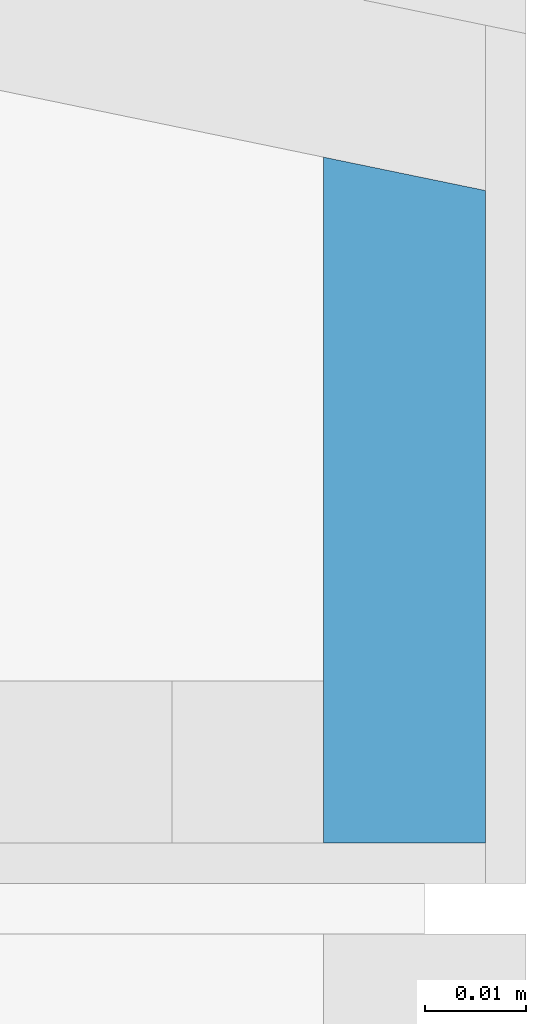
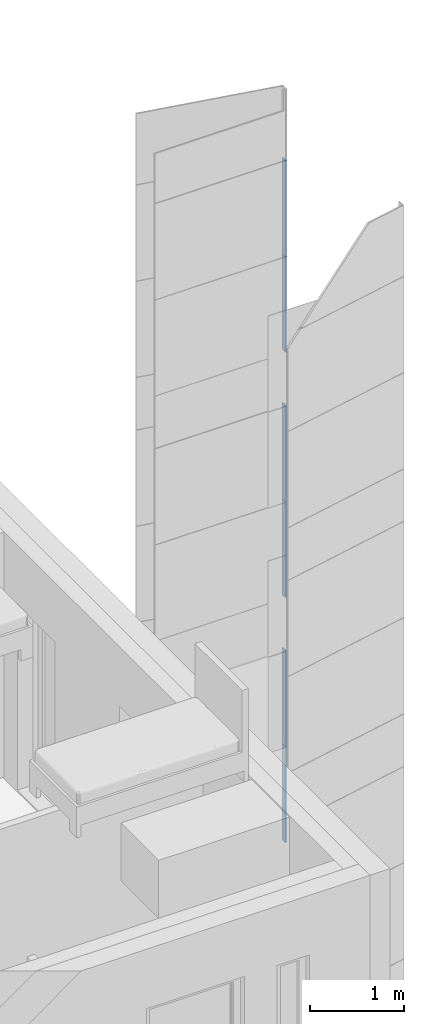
# One storey, part 16 of 125: 6 building element parts, 1 element without a shape of its own.
"""IFC2X3 building model written with IfcOpenShell, lengths in millimetres."""

from ifc_helpers import new_model, entity, si_unit, converted_unit, direction, frame, origin, place, context, subcontext, project, spatial, polyline, outline, extrude, material, type_object, element, aggregate, save


model = new_model("IFC2X3")

# Units and contexts
model_context = context("Model", 3, precision=0.01, world=origin(), true_north=direction((6.123233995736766e-17, 1.0)))
plan_context = context("Plan", 3, precision=0.01, world=origin(), true_north=direction((6.123233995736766e-17, 1.0)))
body_context = subcontext(model_context, "Body", "Model", "MODEL_VIEW")
ifc_project = project(units=[si_unit("LENGTHUNIT", "METRE", prefix="MILLI"), converted_unit("PLANEANGLEUNIT", "DEGREE", entity("IfcPlaneAngleMeasure", 0.017453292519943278), si_unit("PLANEANGLEUNIT", "RADIAN"), dimensions=[0, 0, 0, 0, 0, 0, 0]), si_unit("AREAUNIT", "SQUARE_METRE")], contexts=[model_context, plan_context])

# Site, building, storey
site_placement = place(None, origin())
site = spatial("IfcSite", under=ifc_project, at=site_placement, Name="Default", CompositionType="ELEMENT")
building_placement = place(site_placement, origin())
building = spatial("IfcBuilding", under=site, at=building_placement, CompositionType="ELEMENT")
storey_placement = place(building_placement, frame((0.0, 0.0, 3125.0)))
storey = spatial("IfcBuildingStorey", under=building, at=storey_placement, Name="2K", CompositionType="ELEMENT", Elevation=3125.0)

# Wall, building element parts
wall_type = type_object("IfcWallType", Name="Basic Wall:VS-komposiit", PredefinedType="STANDARD")
wall_placement = place(storey_placement, frame((18942.0, 5428.129167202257, -1010.0), z_axis=(0.0, 0.0, 1.0), x_axis=(0.0, -1.0, 0.0)))
wall = element("IfcWall", 1, at=wall_placement, inside=storey, type_object=wall_type, Name="Basic Wall:VS-komposiit", ObjectType="Basic Wall:VS-komposiit")
ifc_material = material(Name="_K. Õhk. Roov. Fassaadikatte alusroov. Horisontaalne. 25 mm")
building_element_part_1_placement = place(wall_placement, origin())
building_element_part_1 = element("IfcBuildingElementPart", 2, at=building_element_part_1_placement, material=ifc_material, Name="Part", context=body_context, shape_type="SweptSolid", body=[
    extrude(outline(polyline([(-34.7128112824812, -8.0), (33.06294461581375, -8.0), (33.06294461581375, 8.0), (-31.413077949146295, 8.0), (-34.7128112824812, -8.0)])), frame((34.7128112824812, -2.0, 927.4999999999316)), (0.0, 0.0, 1.0), 1240.0000000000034),
])
building_element_part_2_placement = place(wall_placement, origin())
building_element_part_2 = element("IfcBuildingElementPart", 3, at=building_element_part_2_placement, material=ifc_material, Name="Part", context=body_context, shape_type="SweptSolid", body=[
    extrude(outline(polyline([(-34.7128112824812, -8.0), (33.06294461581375, -8.0), (33.06294461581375, 8.0), (-31.413077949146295, 8.0), (-34.7128112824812, -8.0)])), frame((34.7128112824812, -2.0, 2172.4999999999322)), (0.0, 0.0, 1.0), 1240.0000000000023),
])
building_element_part_3_placement = place(wall_placement, origin())
building_element_part_3 = element("IfcBuildingElementPart", 4, at=building_element_part_3_placement, material=ifc_material, Name="Part", context=body_context, shape_type="SweptSolid", body=[
    extrude(outline(polyline([(-34.7128112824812, -8.0), (33.06294461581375, -8.0), (33.06294461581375, 8.0), (-31.413077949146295, 8.0), (-34.7128112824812, -8.0)])), frame((34.7128112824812, -2.0, 4097.499999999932)), (0.0, 0.0, 1.0), 1240.0000000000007),
])
building_element_part_4_placement = place(wall_placement, origin())
building_element_part_4 = element("IfcBuildingElementPart", 5, at=building_element_part_4_placement, material=ifc_material, Name="Part", context=body_context, shape_type="SweptSolid", body=[
    extrude(outline(polyline([(-34.7128112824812, -8.0), (33.06294461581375, -8.0), (33.06294461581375, 8.0), (-31.413077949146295, 8.0), (-34.7128112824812, -8.0)])), frame((34.7128112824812, -2.0, 8512.499999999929)), (0.0, 0.0, 1.0), 1240.000000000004),
])
building_element_part_5_placement = place(wall_placement, origin())
building_element_part_5 = element("IfcBuildingElementPart", 6, at=building_element_part_5_placement, material=ifc_material, Name="Part", context=body_context, shape_type="SweptSolid", body=[
    extrude(outline(polyline([(-34.7128112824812, -8.0), (33.06294461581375, -8.0), (33.06294461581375, 8.0), (-31.413077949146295, 8.0), (-34.7128112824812, -8.0)])), frame((34.7128112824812, -2.0, 7267.499999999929)), (0.0, 0.0, 1.0), 1240.000000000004),
])
building_element_part_6_placement = place(wall_placement, origin())
building_element_part_6 = element("IfcBuildingElementPart", 7, at=building_element_part_6_placement, material=ifc_material, Name="Part", context=body_context, shape_type="SweptSolid", body=[
    extrude(outline(polyline([(-34.7128112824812, -8.0), (33.06294461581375, -8.0), (33.06294461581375, 8.0), (-31.413077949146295, 8.0), (-34.7128112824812, -8.0)])), frame((34.7128112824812, -2.0, 5342.499999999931)), (0.0, 0.0, 1.0), 1240.0000000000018),
])
aggregate(wall, [building_element_part_1, building_element_part_2, building_element_part_3, building_element_part_4, building_element_part_5, building_element_part_6])

save(model, "model.ifc")
